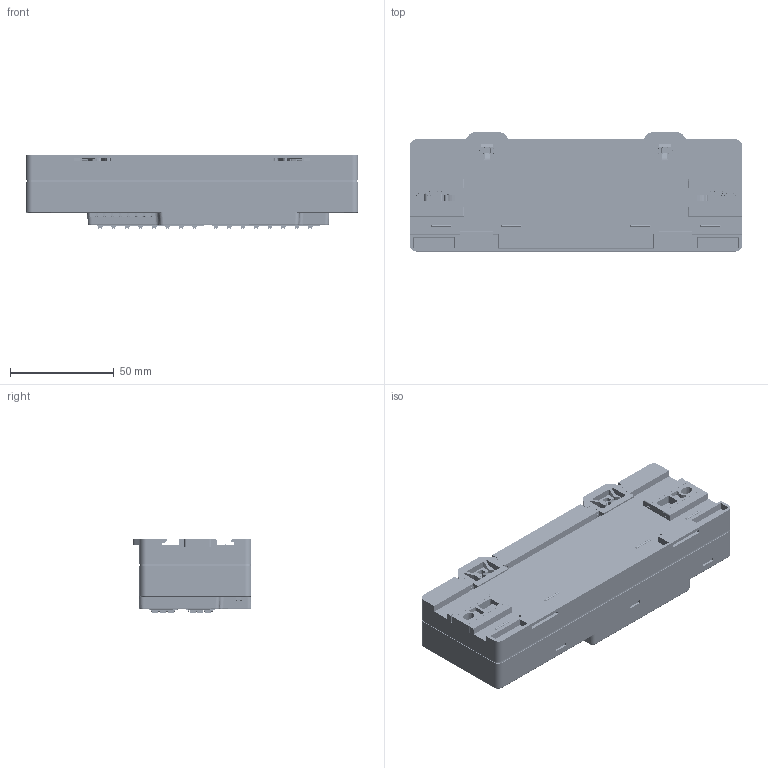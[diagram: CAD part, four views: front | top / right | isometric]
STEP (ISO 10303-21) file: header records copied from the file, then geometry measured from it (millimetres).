
FILE_DESCRIPTION((''),'2;1');
FILE_NAME('EC5-32_SW0003','2026-08-18T18:17:43',('Admin'),(''),'CREO PARAMETRIC BY PTC INC, 2022073','CREO PARAMETRIC BY PTC INC, 2022073','');
FILE_SCHEMA(('CONFIG_CONTROL_DESIGN'));
Products named in the file (1): EC5-32_SW0003
Bounding box: 160 x 57.35 x 35.9 mm (x, y, z)
Volume: 228567.2 mm3; surface area: 94803.4 mm2
Topology: 3 solids, 3 shells, 14116 faces, 39916 edges, 26051 vertices
Faces by surface type: plane 8850, cylinder 2795, extrusion 1387, bspline 488, cone 414, torus 126, sphere 56
Entity records: 493249 total; most frequent: CARTESIAN_POINT 137182, ORIENTED_EDGE 79584, DIRECTION 64533, EDGE_CURVE 39792, VECTOR 30307, LINE 28920, VERTEX_POINT 26019, AXIS2_PLACEMENT_3D 17113
